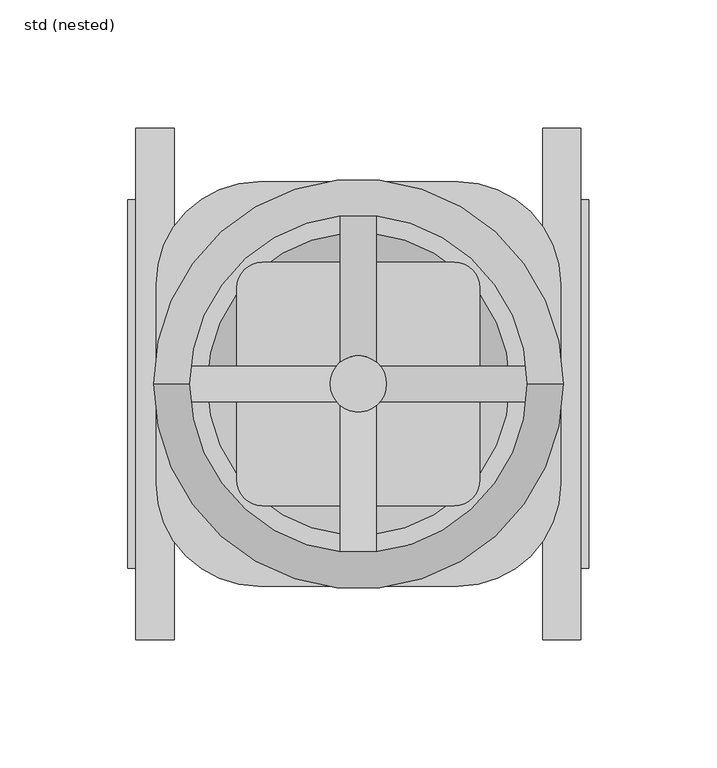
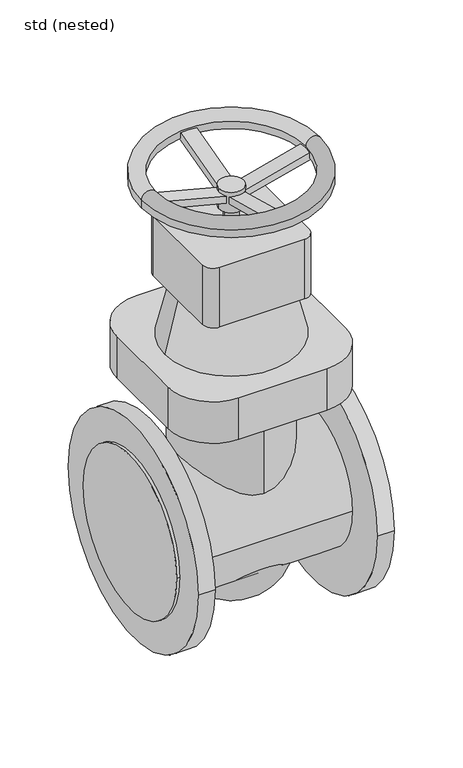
"""IFC4 building model written with IfcOpenShell, lengths in millimetres: valve geometry, ZZZ_do not use_PIA_FE_stop valve for muli star_ACO : std (nested)."""

from ifc_helpers import new_model, si_unit, point, frame, origin, origin_2d, place, context, project, spatial, polyline, circle_curve, ellipse_curve, trimmed, segment, composite_curve, outline, extrude, source, transform, mapped, element, save
from ifc_brep_helpers import plane_surface, cylinder_surface, revolved_surface, advanced_brep


def std_nested_9395a39a(model_context):
    return source(origin(), model_context, "Body", "SolidModel", [
        advanced_brep(
        [(37.5, 47.5, 259.0), (-37.5, 47.5, 259.0), (-47.5, 37.5, 259.0), (-47.5, -37.5, 259.0), (-37.5, -47.5, 259.0), (37.5, -47.5, 259.0), (47.5, -37.5, 259.0), (47.5, 37.5, 259.0), (6.0, 0.0, 259.0), (-6.0, 0.0, 259.0), (37.5, 47.5, 203.0), (47.5, 37.5, 203.0), (47.5, 0.0, 203.0), (0.0, 47.5, 203.0), (47.5, -37.5, 203.0), (37.5, -47.5, 203.0), (0.0, -47.5, 203.0), (-37.5, -47.5, 203.0), (-47.5, -37.5, 203.0), (-47.5, 0.0, 203.0), (-47.5, 37.5, 203.0), (-37.5, 47.5, 203.0), (-6.0, 0.0, 276.0), (6.0, 0.0, 276.0), (-59.0, 0.0, 156.0), (59.0, 0.0, 156.0), (39.0, 79.0, 156.0), (-39.0, 79.0, 156.0), (-79.0, 39.0, 156.0), (-79.0, -39.0, 156.0), (-39.0, -79.0, 156.0), (39.0, -79.0, 156.0), (79.0, -39.0, 156.0), (79.0, 39.0, 156.0), (39.0, 79.0, 117.0), (79.0, 39.0, 117.0), (79.0, -39.0, 117.0), (39.0, -79.0, 117.0), (-39.0, -79.0, 117.0), (-79.0, -39.0, 117.0), (-79.0, 39.0, 117.0), (-39.0, 79.0, 117.0), (0.0, 50.0, 117.0), (0.0, -50.0, 117.0), (0.0, -50.0, -35.0), (-50.0, 0.0, -35.0), (0.0, 50.0, -35.0), (50.0, 0.0, -35.0)],
        [
            (0, 1),
            (1, 2, circle_curve(frame((-37.5, 37.5, 259.0), z_axis=(0.0, 0.0, 1.0), x_axis=(1.0, 0.0, 0.0)), 10.0)),
            (2, 3),
            (3, 4, circle_curve(frame((-37.5, -37.5, 259.0), z_axis=(0.0, 0.0, 1.0), x_axis=(1.0, 0.0, 0.0)), 10.0)),
            (4, 5),
            (5, 6, circle_curve(frame((37.5, -37.5, 259.0), z_axis=(0.0, 0.0, 1.0), x_axis=(1.0, 0.0, 0.0)), 10.0)),
            (6, 7),
            (7, 0, circle_curve(frame((37.5, 37.5, 259.0), z_axis=(0.0, 0.0, 1.0), x_axis=(1.0, 0.0, 0.0)), 10.0)),
            (8, 9, circle_curve(frame((0.0, 0.0, 259.0), z_axis=(0.0, 0.0, -1.0), x_axis=(1.0, 0.0, 0.0)), 6.0)),
            (9, 8, circle_curve(frame((0.0, 0.0, 259.0), z_axis=(0.0, 0.0, -1.0), x_axis=(1.0, 0.0, 0.0)), 6.0)),
            (10, 11, circle_curve(frame((37.5, 37.5, 203.0), z_axis=(0.0, 0.0, -1.0), x_axis=(1.0, 0.0, 0.0)), 10.0)),
            (11, 12),
            (12, 13, circle_curve(frame((0.0, 0.0, 203.0), z_axis=(0.0, 0.0, 1.0), x_axis=(1.0, 0.0, 0.0)), 47.5)),
            (13, 10),
            (14, 15, circle_curve(frame((37.5, -37.5, 203.0), z_axis=(0.0, 0.0, -1.0), x_axis=(1.0, 0.0, 0.0)), 10.0)),
            (15, 16),
            (16, 12, circle_curve(frame((0.0, 0.0, 203.0), z_axis=(0.0, 0.0, 1.0), x_axis=(-1.0, 0.0, 0.0)), 47.5)),
            (12, 14),
            (17, 18, circle_curve(frame((-37.5, -37.5, 203.0), z_axis=(0.0, 0.0, -1.0), x_axis=(1.0, 0.0, 0.0)), 10.0)),
            (18, 19),
            (19, 16, circle_curve(frame((0.0, 0.0, 203.0), z_axis=(0.0, 0.0, 1.0), x_axis=(-1.0, 0.0, 0.0)), 47.5)),
            (16, 17),
            (20, 21, circle_curve(frame((-37.5, 37.5, 203.0), z_axis=(0.0, 0.0, -1.0), x_axis=(1.0, 0.0, 0.0)), 10.0)),
            (21, 13),
            (13, 19, circle_curve(frame((0.0, 0.0, 203.0), z_axis=(0.0, 0.0, 1.0), x_axis=(1.0, 0.0, 0.0)), 47.5)),
            (19, 20),
            (0, 10),
            (21, 1),
            (2, 20),
            (18, 3),
            (4, 17),
            (15, 5),
            (6, 14),
            (11, 7),
            (22, 23, circle_curve(frame((0.0, 0.0, 276.0), z_axis=(0.0, 0.0, 1.0), x_axis=(1.0, 0.0, 0.0)), 6.0)),
            (23, 22, circle_curve(frame((0.0, 0.0, 276.0), z_axis=(0.0, 0.0, 1.0), x_axis=(1.0, 0.0, 0.0)), 6.0)),
            (22, 9),
            (8, 23),
            (24, 19),
            (12, 25),
            (25, 24, circle_curve(frame((0.0, 0.0, 156.0), z_axis=(0.0, 0.0, 1.0), x_axis=(1.0, 0.0, 0.0)), 59.0)),
            (24, 25, circle_curve(frame((0.0, 0.0, 156.0), z_axis=(0.0, 0.0, 1.0), x_axis=(-1.0, 0.0, 0.0)), 59.0)),
            (26, 27),
            (27, 28, circle_curve(frame((-39.0, 39.0, 156.0), z_axis=(0.0, 0.0, 1.0), x_axis=(1.0, 0.0, 0.0)), 40.0)),
            (28, 29),
            (29, 30, circle_curve(frame((-39.0, -39.0, 156.0), z_axis=(0.0, 0.0, 1.0), x_axis=(1.0, 0.0, 0.0)), 40.0)),
            (30, 31),
            (31, 32, circle_curve(frame((39.0, -39.0, 156.0), z_axis=(0.0, 0.0, 1.0), x_axis=(1.0, 0.0, 0.0)), 40.0)),
            (32, 33),
            (33, 26, circle_curve(frame((39.0, 39.0, 156.0), z_axis=(0.0, 0.0, 1.0), x_axis=(1.0, 0.0, 0.0)), 40.0)),
            (34, 35, circle_curve(frame((39.0, 39.0, 117.0), z_axis=(0.0, 0.0, -1.0), x_axis=(1.0, 0.0, 0.0)), 40.0)),
            (35, 36),
            (36, 37, circle_curve(frame((39.0, -39.0, 117.0), z_axis=(0.0, 0.0, -1.0), x_axis=(1.0, 0.0, 0.0)), 40.0)),
            (37, 38),
            (38, 39, circle_curve(frame((-39.0, -39.0, 117.0), z_axis=(0.0, 0.0, -1.0), x_axis=(1.0, 0.0, 0.0)), 40.0)),
            (39, 40),
            (40, 41, circle_curve(frame((-39.0, 39.0, 117.0), z_axis=(0.0, 0.0, -1.0), x_axis=(1.0, 0.0, 0.0)), 40.0)),
            (41, 34),
            (42, 43, circle_curve(frame((0.0, 0.0, 117.0), z_axis=(0.0, 0.0, 1.0), x_axis=(0.0, -1.0, 0.0)), 50.0)),
            (43, 42, circle_curve(frame((0.0, 0.0, 117.0), z_axis=(0.0, 0.0, 1.0), x_axis=(0.0, -1.0, 0.0)), 50.0)),
            (26, 34),
            (41, 27),
            (28, 40),
            (39, 29),
            (30, 38),
            (37, 31),
            (32, 36),
            (35, 33),
            (44, 45, circle_curve(frame((0.0, 0.0, -35.0), z_axis=(0.0, 0.0, -1.0), x_axis=(0.0, 1.0, 0.0)), 50.0)),
            (45, 46, circle_curve(frame((0.0, 0.0, -35.0), z_axis=(0.0, 0.0, -1.0), x_axis=(0.0, -1.0, 0.0)), 50.0)),
            (46, 47, circle_curve(frame((0.0, 0.0, -35.0), z_axis=(0.0, 0.0, -1.0), x_axis=(0.0, -1.0, 0.0)), 50.0)),
            (47, 44, circle_curve(frame((0.0, 0.0, -35.0), z_axis=(0.0, 0.0, -1.0), x_axis=(0.0, 1.0, 0.0)), 50.0)),
            (42, 46),
            (44, 43),
        ],
        [
            plane_surface(frame((-37.5, 47.5, 259.0), z_axis=(0.0, 0.0, 1.0), x_axis=(-1.0, 0.0, 0.0))),
            plane_surface(frame((-37.5, 47.5, 203.0), z_axis=(0.0, 0.0, -1.0), x_axis=(1.0, 0.0, 0.0))),
            plane_surface(frame((37.5, 47.5, 259.0), z_axis=(0.0, 1.0, 0.0), x_axis=(0.0, 0.0, -1.0))),
            plane_surface(frame((-47.5, 37.5, 259.0), z_axis=(-1.0, 0.0, 0.0), x_axis=(0.0, 0.0, -1.0))),
            plane_surface(frame((-37.5, -47.5, 259.0), z_axis=(0.0, -1.0, 0.0), x_axis=(0.0, 0.0, -1.0))),
            plane_surface(frame((47.5, -37.5, 259.0), z_axis=(1.0, 0.0, 0.0), x_axis=(0.0, 0.0, -1.0))),
            cylinder_surface(frame((-37.5, 37.5, 203.0), z_axis=(0.0, 0.0, 1.0), x_axis=(1.0, 0.0, 0.0)), 10.0),
            cylinder_surface(frame((-37.5, -37.5, 203.0), z_axis=(0.0, 0.0, 1.0), x_axis=(1.0, 0.0, 0.0)), 10.0),
            cylinder_surface(frame((37.5, -37.5, 203.0), z_axis=(0.0, 0.0, 1.0), x_axis=(1.0, 0.0, 0.0)), 10.0),
            cylinder_surface(frame((37.5, 37.5, 203.0), z_axis=(0.0, 0.0, 1.0), x_axis=(1.0, 0.0, 0.0)), 10.0),
            plane_surface(frame((6.0, 0.0, 276.0), z_axis=(0.0, 0.0, 1.0), x_axis=(0.0, 1.0, 0.0))),
            cylinder_surface(frame((0.0, 0.0, 259.0), z_axis=(0.0, 0.0, 1.0), x_axis=(1.0, 0.0, 0.0)), 6.0),
            revolved_surface(polyline([(-47.500000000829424, 0.0, 203.0), (-59.0, 0.0, 156.0)]), (0.0, 0.0, 397.1304348), (0.0, 0.0, -1.0)),
            plane_surface(frame((-39.0, 79.0, 156.0), z_axis=(0.0, 0.0, 1.0), x_axis=(-1.0, 0.0, 0.0))),
            plane_surface(frame((-39.0, 79.0, 117.0), z_axis=(0.0, 0.0, -1.0), x_axis=(1.0, 0.0, 0.0))),
            plane_surface(frame((39.0, 79.0, 156.0), z_axis=(0.0, 1.0, 0.0), x_axis=(0.0, 0.0, -1.0))),
            plane_surface(frame((-79.0, 39.0, 156.0), z_axis=(-1.0, 0.0, 0.0), x_axis=(0.0, 0.0, -1.0))),
            plane_surface(frame((-39.0, -79.0, 156.0), z_axis=(0.0, -1.0, 0.0), x_axis=(0.0, 0.0, -1.0))),
            plane_surface(frame((79.0, -39.0, 156.0), z_axis=(1.0, 0.0, 0.0), x_axis=(0.0, 0.0, -1.0))),
            cylinder_surface(frame((-39.0, 39.0, 117.0), z_axis=(0.0, 0.0, 1.0), x_axis=(1.0, 0.0, 0.0)), 40.0),
            cylinder_surface(frame((-39.0, -39.0, 117.0), z_axis=(0.0, 0.0, 1.0), x_axis=(1.0, 0.0, 0.0)), 40.0),
            cylinder_surface(frame((39.0, -39.0, 117.0), z_axis=(0.0, 0.0, 1.0), x_axis=(1.0, 0.0, 0.0)), 40.0),
            cylinder_surface(frame((39.0, 39.0, 117.0), z_axis=(0.0, 0.0, 1.0), x_axis=(1.0, 0.0, 0.0)), 40.0),
            revolved_surface(trimmed(ellipse_curve(frame((0.0, 0.0, -35.0), z_axis=(0.0, 0.0, 1.0), x_axis=(0.0, -1.0, 0.0)), 50.0, 50.0), [point((50.0, 0.0, -35.0))], [point((-50.0, 0.0, -35.0))], True, "CARTESIAN"), (-64.0, 0.0, -35.0), (-1.0, 0.0, 0.0)),
            cylinder_surface(frame((0.0, 0.0, -35.0), z_axis=(0.0, 0.0, 1.0), x_axis=(0.0, -1.0, 0.0)), 50.0),
        ],
        [
            (0, [[1, 2, 3, 4, 5, 6, 7, 8], [9, 10]]),
            (1, [[11, 12, 13, 14]]),
            (1, [[15, 16, 17, 18]]),
            (1, [[19, 20, 21, 22]]),
            (1, [[23, 24, 25, 26]]),
            (2, [[-1, 27, -14, -24, 28]]),
            (3, [[-3, 29, -26, -20, 30]]),
            (4, [[-5, 31, -22, -16, 32]]),
            (5, [[-7, 33, -18, -12, 34]]),
            (6, [[-2, -28, -23, -29]]),
            (7, [[-4, -30, -19, -31]]),
            (8, [[-6, -32, -15, -33]]),
            (9, [[-8, -34, -11, -27]]),
            (10, [[35, 36]]),
            (11, [[-35, 37, -9, 38]]),
            (11, [[-36, -38, -10, -37]]),
            (12, [[39, -25, -13, 40, 41]]),
            (12, [[-39, 42, -40, -17, -21]]),
            (13, [[43, 44, 45, 46, 47, 48, 49, 50], [-41, -42]]),
            (14, [[51, 52, 53, 54, 55, 56, 57, 58], [59, 60]]),
            (15, [[-43, 61, -58, 62]]),
            (16, [[-45, 63, -56, 64]]),
            (17, [[-47, 65, -54, 66]]),
            (18, [[-49, 67, -52, 68]]),
            (19, [[-44, -62, -57, -63]]),
            (20, [[-46, -64, -55, -65]]),
            (21, [[-48, -66, -53, -67]]),
            (22, [[-50, -68, -51, -61]]),
            (23, [[69, 70, 71, 72]]),
            (24, [[73, -70, -69, 74, -59]]),
            (24, [[-73, -60, -74, -72, -71]]),
        ],
    ),
        advanced_brep(
        [(-73.0, -7.0, 301.0), (-8.4852814, -7.0, 284.5030856), (-8.4852814, -7.0, 290.9139101), (-65.627738, -7.0, 306.0475288), (-65.627738, -7.0, 301.0), (8.4852814, -7.0, 284.5030856), (73.0, -7.0, 301.0), (65.627738, -7.0, 301.0), (65.627738, -7.0, 306.0475288), (8.4852814, -7.0, 290.9139101), (73.0, 7.0, 301.0), (8.4852814, 7.0, 284.5030856), (8.4852814, 7.0, 290.9139101), (65.627738, 7.0, 306.0475288), (65.627738, 7.0, 301.0), (-8.4852814, 7.0, 284.5030856), (-73.0, 7.0, 301.0), (-65.627738, 7.0, 301.0), (-65.627738, 7.0, 306.0475288), (-8.4852814, 7.0, 290.9139101), (11.0, 0.0, 291.5799087), (66.0, 0.0, 306.1461187), (-11.0, 0.0, 291.5799087), (-66.0, 0.0, 306.1461187), (-73.0, 0.0, 301.0), (-11.0, 0.0, 285.1461187), (11.0, 0.0, 285.1461187), (73.0, 0.0, 301.0), (-11.0, 0.0, 295.0), (11.0, 0.0, 295.0), (-11.0, 0.0, 276.0), (11.0, 0.0, 276.0), (7.0, -8.4852814, 290.9139101), (7.0, -8.4852814, 284.5030856), (-7.0, -8.4852814, 284.5030856), (-7.0, -8.4852814, 290.9139101), (7.0, 8.4852814, 284.5030856), (7.0, 8.4852814, 290.9139101), (-7.0, 8.4852814, 290.9139101), (-7.0, 8.4852814, 284.5030856), (7.0, -73.0, 301.0), (7.0, -65.627738, 306.0475288), (7.0, -65.627738, 301.0), (7.0, 73.0, 301.0), (7.0, 65.627738, 301.0), (7.0, 65.627738, 306.0475288), (-7.0, 73.0, 301.0), (-7.0, 65.627738, 306.0475288), (-7.0, 65.627738, 301.0), (-7.0, -73.0, 301.0), (-7.0, -65.627738, 301.0), (-7.0, -65.627738, 306.0475288), (-80.0, 0.0, 301.0), (80.0, 0.0, 301.0), (-80.0, 0.0, 308.0), (80.0, 0.0, 308.0), (-66.0, 0.0, 308.0), (66.0, 0.0, 308.0)],
        [
            (0, 1),
            (1, 2),
            (2, 3),
            (3, 4),
            (4, 0),
            (5, 6),
            (6, 7),
            (7, 8),
            (8, 9),
            (9, 5),
            (10, 11),
            (11, 12),
            (12, 13),
            (13, 14),
            (14, 10),
            (15, 16),
            (16, 17),
            (17, 18),
            (18, 19),
            (19, 15),
            (20, 9, ellipse_curve(frame((0.0, 0.0, 288.6666667), z_axis=(0.25601388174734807, 0.0, -0.9666731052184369), x_axis=(0.9666731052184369, 0.0, 0.2560138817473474)), 11.3792346, 11.0)),
            (8, 21, ellipse_curve(frame((0.0, 0.0, 288.6666667), z_axis=(-0.25601388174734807, 0.0, 0.9666731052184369), x_axis=(0.9666731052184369, 0.0, 0.2560138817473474)), 68.2754073, 66.0)),
            (21, 13, ellipse_curve(frame((0.0, 0.0, 288.6666667), z_axis=(-0.25601388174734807, 0.0, 0.9666731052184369), x_axis=(0.9666731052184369, 0.0, 0.2560138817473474)), 68.2754073, 66.0)),
            (12, 20, ellipse_curve(frame((0.0, 0.0, 288.6666667), z_axis=(0.25601388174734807, 0.0, -0.9666731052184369), x_axis=(0.9666731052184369, 0.0, 0.2560138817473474)), 11.3792346, 11.0)),
            (2, 22, ellipse_curve(frame((0.0, 0.0, 288.6666667), z_axis=(-0.25601388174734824, 0.0, -0.9666731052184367), x_axis=(-0.9666731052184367, 0.0, 0.25601388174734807)), 11.3792346, 11.0)),
            (22, 19, ellipse_curve(frame((0.0, 0.0, 288.6666667), z_axis=(-0.25601388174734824, 0.0, -0.9666731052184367), x_axis=(-0.9666731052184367, 0.0, 0.25601388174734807)), 11.3792346, 11.0)),
            (18, 23, ellipse_curve(frame((0.0, 0.0, 288.6666667), z_axis=(0.25601388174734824, 0.0, 0.9666731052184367), x_axis=(-0.9666731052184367, 0.0, 0.25601388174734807)), 68.2754073, 66.0)),
            (23, 3, ellipse_curve(frame((0.0, 0.0, 288.6666667), z_axis=(0.25601388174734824, 0.0, 0.9666731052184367), x_axis=(-0.9666731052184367, 0.0, 0.25601388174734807)), 68.2754073, 66.0)),
            (0, 24),
            (24, 16),
            (15, 25, ellipse_curve(frame((0.0, 0.0, 282.3333333), z_axis=(0.24773668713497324, 0.0, 0.968827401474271), x_axis=(-0.9688274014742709, 0.0, 0.2477366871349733)), 11.3539315, 11.0)),
            (25, 1, ellipse_curve(frame((0.0, 0.0, 282.3333333), z_axis=(0.24773668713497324, 0.0, 0.968827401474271), x_axis=(-0.9688274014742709, 0.0, 0.2477366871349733)), 11.3539315, 11.0)),
            (5, 26, ellipse_curve(frame((0.0, 0.0, 282.3333333), z_axis=(-0.24773668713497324, 0.0, 0.968827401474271), x_axis=(0.9688274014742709, 0.0, 0.2477366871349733)), 11.3539315, 11.0)),
            (26, 11, ellipse_curve(frame((0.0, 0.0, 282.3333333), z_axis=(-0.24773668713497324, 0.0, 0.968827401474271), x_axis=(0.9688274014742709, 0.0, 0.2477366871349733)), 11.3539315, 11.0)),
            (10, 27),
            (27, 6),
            (28, 29, circle_curve(frame((0.0, 0.0, 295.0), z_axis=(0.0, 0.0, 1.0), x_axis=(1.0, 0.0, 0.0)), 11.0)),
            (29, 28, circle_curve(frame((0.0, 0.0, 295.0), z_axis=(0.0, 0.0, 1.0), x_axis=(1.0, 0.0, 0.0)), 11.0)),
            (30, 31, circle_curve(frame((0.0, 0.0, 276.0), z_axis=(0.0, 0.0, -1.0), x_axis=(1.0, 0.0, 0.0)), 11.0)),
            (31, 30, circle_curve(frame((0.0, 0.0, 276.0), z_axis=(0.0, 0.0, -1.0), x_axis=(1.0, 0.0, 0.0)), 11.0)),
            (28, 22),
            (25, 30),
            (31, 26),
            (20, 29),
            (32, 33),
            (33, 34, ellipse_curve(frame((0.0, 0.0, 282.3333333), z_axis=(0.0, -0.24773668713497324, -0.968827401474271), x_axis=(0.0, -0.9688274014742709, 0.2477366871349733)), 11.3539315, 11.0)),
            (34, 35),
            (35, 32, ellipse_curve(frame((0.0, 0.0, 288.6666667), z_axis=(0.0, 0.25601388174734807, 0.9666731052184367), x_axis=(0.0, -0.9666731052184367, 0.25601388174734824)), 11.3792346, 11.0)),
            (36, 37),
            (37, 38, ellipse_curve(frame((0.0, 0.0, 288.6666667), z_axis=(0.0, -0.2560138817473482, 0.9666731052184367), x_axis=(0.0, 0.9666731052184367, 0.2560138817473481)), 11.3792346, 11.0)),
            (38, 39),
            (39, 36, ellipse_curve(frame((0.0, 0.0, 282.3333333), z_axis=(0.0, 0.24773668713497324, -0.968827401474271), x_axis=(0.0, 0.9688274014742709, 0.2477366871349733)), 11.3539315, 11.0)),
            (40, 33),
            (32, 41),
            (41, 42),
            (42, 40),
            (36, 43),
            (43, 44),
            (44, 45),
            (45, 37),
            (46, 39),
            (38, 47),
            (47, 48),
            (48, 46),
            (34, 49),
            (49, 50),
            (50, 51),
            (51, 35),
            (40, 49),
            (46, 43),
            (45, 47, ellipse_curve(frame((0.0, 0.0, 288.6666667), z_axis=(0.0, -0.2560138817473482, 0.9666731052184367), x_axis=(0.0, 0.9666731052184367, 0.2560138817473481)), 68.2754073, 66.0)),
            (51, 41, ellipse_curve(frame((0.0, 0.0, 288.6666667), z_axis=(0.0, 0.25601388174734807, 0.9666731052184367), x_axis=(0.0, -0.9666731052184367, 0.25601388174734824)), 68.2754073, 66.0)),
            (52, 53, circle_curve(frame((0.0, 0.0, 301.0), z_axis=(0.0, 0.0, -1.0), x_axis=(1.0, 0.0, 0.0)), 80.0)),
            (53, 27),
            (14, 44, circle_curve(frame((0.0, 0.0, 301.0), z_axis=(0.0, 0.0, 1.0), x_axis=(1.0, 0.0, 0.0)), 66.0)),
            (48, 17, circle_curve(frame((0.0, 0.0, 301.0), z_axis=(0.0, 0.0, 1.0), x_axis=(1.0, 0.0, 0.0)), 66.0)),
            (24, 52),
            (53, 52, circle_curve(frame((0.0, 0.0, 301.0), z_axis=(0.0, 0.0, -1.0), x_axis=(1.0, 0.0, 0.0)), 80.0)),
            (4, 50, circle_curve(frame((0.0, 0.0, 301.0), z_axis=(0.0, 0.0, 1.0), x_axis=(1.0, 0.0, 0.0)), 66.0)),
            (42, 7, circle_curve(frame((0.0, 0.0, 301.0), z_axis=(0.0, 0.0, 1.0), x_axis=(1.0, 0.0, 0.0)), 66.0)),
            (52, 54),
            (54, 55, circle_curve(frame((0.0, 0.0, 308.0), z_axis=(0.0, 0.0, -1.0), x_axis=(1.0, 0.0, 0.0)), 80.0)),
            (55, 53),
            (55, 54, circle_curve(frame((0.0, 0.0, 308.0), z_axis=(0.0, 0.0, -1.0), x_axis=(1.0, 0.0, 0.0)), 80.0)),
            (54, 56, circle_curve(frame((-73.0, 0.0, 308.0), z_axis=(0.0, 1.0, 0.0), x_axis=(0.0, 0.0, 1.0)), 7.0)),
            (56, 57, circle_curve(frame((0.0, 0.0, 308.0), z_axis=(0.0, 0.0, -1.0), x_axis=(1.0, 0.0, 0.0)), 66.0)),
            (57, 55, circle_curve(frame((73.0, 0.0, 308.0), z_axis=(0.0, 1.0, 0.0), x_axis=(0.0, 0.0, 1.0)), 7.0)),
            (57, 56, circle_curve(frame((0.0, 0.0, 308.0), z_axis=(0.0, 0.0, -1.0), x_axis=(1.0, 0.0, 0.0)), 66.0)),
            (56, 23),
            (21, 57),
        ],
        [
            plane_surface(frame((73.0, -7.0, 301.0), z_axis=(0.0, -1.0, 0.0), x_axis=(0.0, 0.0, 1.0))),
            plane_surface(frame((73.0, 7.0, 301.0), z_axis=(0.0, 1.0, 0.0), x_axis=(0.0, 0.0, -1.0))),
            plane_surface(frame((73.0, -7.0, 308.0), z_axis=(-0.25601388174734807, 0.0, 0.9666731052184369), x_axis=(0.0, 1.0, 0.0))),
            plane_surface(frame((0.0, -7.0, 288.6666667), z_axis=(0.25601388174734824, 0.0, 0.9666731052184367), x_axis=(0.0, 1.0, 0.0))),
            plane_surface(frame((-73.0, -7.0, 301.0), z_axis=(-0.24773668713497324, 0.0, -0.968827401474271), x_axis=(0.0, 1.0, 0.0))),
            plane_surface(frame((0.0, -7.0, 282.3333333), z_axis=(0.24773668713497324, 0.0, -0.968827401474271), x_axis=(0.0, 1.0, 0.0))),
            plane_surface(frame((11.0, 0.0, 295.0), z_axis=(0.0, 0.0, 1.0), x_axis=(0.0, 1.0, 0.0))),
            plane_surface(frame((11.0, 0.0, 276.0), z_axis=(0.0, 0.0, -1.0), x_axis=(0.0, -1.0, 0.0))),
            cylinder_surface(frame((0.0, 0.0, 276.0), z_axis=(0.0, 0.0, 1.0), x_axis=(1.0, 0.0, 0.0)), 11.0),
            plane_surface(frame((7.0, 0.0, 282.3333333), z_axis=(1.0, 0.0, 0.0), x_axis=(0.0, 0.968827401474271, -0.24773668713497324))),
            plane_surface(frame((-7.0, 0.0, 282.3333333), z_axis=(-1.0, 0.0, 0.0), x_axis=(0.0, -0.968827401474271, 0.24773668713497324))),
            plane_surface(frame((7.0, -73.0, 301.0), z_axis=(0.0, -0.24773668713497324, -0.968827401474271), x_axis=(-1.0, 0.0, 0.0))),
            plane_surface(frame((7.0, 0.0, 282.3333333), z_axis=(0.0, 0.24773668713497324, -0.968827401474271), x_axis=(-1.0, 0.0, 0.0))),
            plane_surface(frame((7.0, 73.0, 308.0), z_axis=(0.0, -0.2560138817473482, 0.9666731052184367), x_axis=(-1.0, 0.0, 0.0))),
            plane_surface(frame((7.0, 0.0, 288.6666667), z_axis=(0.0, 0.25601388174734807, 0.9666731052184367), x_axis=(-1.0, 0.0, 0.0))),
            plane_surface(frame((0.0, 0.0, 301.0), z_axis=(0.0, 0.0, -1.0), x_axis=(1.0, 0.0, 0.0))),
            cylinder_surface(frame((0.0, 0.0, 405.0), z_axis=(0.0, 0.0, 1.0), x_axis=(1.0, 0.0, 0.0)), 80.0),
            revolved_surface(trimmed(ellipse_curve(frame((73.0, 0.0, 308.0), z_axis=(0.0, -1.0, 0.0), x_axis=(0.0, 0.0, 1.0)), 7.0, 7.0), [point((80.0, 0.0, 308.0))], [point((66.0, 0.0, 308.0))], True, "CARTESIAN"), (0.0, 0.0, 405.0), (0.0, 0.0, 1.0)),
            revolved_surface(polyline([(66.0, 0.0, 308.0), (66.0, 0.0, 271.1872146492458)]), (0.0, 0.0, 405.0), (0.0, 0.0, 1.0)),
        ],
        [
            (0, [[1, 2, 3, 4, 5]]),
            (0, [[6, 7, 8, 9, 10]]),
            (1, [[11, 12, 13, 14, 15]]),
            (1, [[16, 17, 18, 19, 20]]),
            (2, [[21, -9, 22, 23, -13, 24]]),
            (3, [[25, 26, -19, 27, 28, -3]]),
            (4, [[-1, 29, 30, -16, 31, 32]]),
            (5, [[-6, 33, 34, -11, 35, 36]]),
            (6, [[37, 38]]),
            (7, [[39, 40]]),
            (8, [[-37, 41, -25, -2, -32, 42, -40, 43, -33, -10, -21, 44], [45, 46, 47, 48]]),
            (8, [[-38, -44, -24, -12, -34, -43, -39, -42, -31, -20, -26, -41], [49, 50, 51, 52]]),
            (9, [[53, -45, 54, 55, 56]]),
            (9, [[57, 58, 59, 60, -49]]),
            (10, [[61, -51, 62, 63, 64]]),
            (10, [[65, 66, 67, 68, -47]]),
            (11, [[-53, 69, -65, -46]]),
            (12, [[-57, -52, -61, 70]]),
            (13, [[-50, -60, 71, -62]]),
            (14, [[-48, -68, 72, -54]]),
            (15, [[73, 74, -35, -15, 75, -58, -70, -64, 76, -17, -30, 77]]),
            (15, [[78, -77, -29, -5, 79, -66, -69, -56, 80, -7, -36, -74]]),
            (16, [[-73, 81, 82, 83]]),
            (16, [[-78, -83, 84, -81]]),
            (17, [[-82, 85, 86, 87]]),
            (17, [[-84, -87, 88, -85]]),
            (18, [[-86, 89, -27, -18, -76, -63, -71, -59, -75, -14, -23, 90]]),
            (18, [[-88, -90, -22, -8, -80, -55, -72, -67, -79, -4, -28, -89]]),
        ],
    ),
        advanced_brep(
        [(72.0, -61.5, 0.0), (72.0, 61.5, 0.0), (-72.0, -61.5, 0.0), (-72.0, 61.5, 0.0), (-72.0, -100.0, 0.0), (-72.0, 100.0, 0.0), (-87.0, -100.0, 0.0), (-87.0, 100.0, 0.0)],
        [
            (0, 1, circle_curve(frame((72.0, 0.0, 0.0), z_axis=(1.0, 0.0, 0.0), x_axis=(0.0, 1.0, 0.0)), 61.5)),
            (1, 0, circle_curve(frame((72.0, 0.0, 0.0), z_axis=(1.0, 0.0, 0.0), x_axis=(0.0, 1.0, 0.0)), 61.5)),
            (0, 2),
            (2, 3, circle_curve(frame((-72.0, 0.0, 0.0), z_axis=(1.0, 0.0, 0.0), x_axis=(0.0, 1.0, 0.0)), 61.5)),
            (3, 1),
            (3, 2, circle_curve(frame((-72.0, 0.0, 0.0), z_axis=(1.0, 0.0, 0.0), x_axis=(0.0, 1.0, 0.0)), 61.5)),
            (4, 5, circle_curve(frame((-72.0, 0.0, 0.0), z_axis=(1.0, 0.0, 0.0), x_axis=(0.0, 1.0, 0.0)), 100.0)),
            (5, 4, circle_curve(frame((-72.0, 0.0, 0.0), z_axis=(1.0, 0.0, 0.0), x_axis=(0.0, 1.0, 0.0)), 100.0)),
            (6, 7, circle_curve(frame((-87.0, 0.0, 0.0), z_axis=(-1.0, 0.0, 0.0), x_axis=(0.0, 1.0, 0.0)), 100.0)),
            (7, 6, circle_curve(frame((-87.0, 0.0, 0.0), z_axis=(-1.0, 0.0, 0.0), x_axis=(0.0, 1.0, 0.0)), 100.0)),
            (4, 6),
            (7, 5),
        ],
        [
            plane_surface(frame((72.0, 61.5, 0.0), z_axis=(1.0, 0.0, 0.0), x_axis=(0.0, 0.0, 1.0))),
            cylinder_surface(frame((-72.0, 0.0, 0.0), z_axis=(1.0, 0.0, 0.0), x_axis=(0.0, 1.0, 0.0)), 61.5),
            plane_surface(frame((-72.0, 100.0, 0.0), z_axis=(1.0, 0.0, 0.0), x_axis=(0.0, 0.0, 1.0))),
            plane_surface(frame((-87.0, 100.0, 0.0), z_axis=(-1.0, 0.0, 0.0), x_axis=(0.0, 0.0, -1.0))),
            cylinder_surface(frame((-87.0, 0.0, 0.0), z_axis=(1.0, 0.0, 0.0), x_axis=(0.0, 1.0, 0.0)), 100.0),
        ],
        [
            (0, [[1, 2]]),
            (1, [[-1, 3, 4, 5]]),
            (1, [[-2, -5, 6, -3]]),
            (2, [[7, 8], [-4, -6]]),
            (3, [[9, 10]]),
            (4, [[-7, 11, -10, 12]]),
            (4, [[-8, -12, -9, -11]]),
        ],
    ),
        extrude(outline(composite_curve([segment(trimmed(circle_curve(origin_2d(), 100.0), [point((-100.0, 0.0))], [point((100.0, 0.0))], False, "CARTESIAN"), True, "CONTINUOUS"), segment(trimmed(circle_curve(origin_2d(), 100.0), [point((100.0, 0.0))], [point((-100.0, 0.0))], False, "CARTESIAN"), True, "CONTINUOUS")], self_intersect=False)), frame((72.0, 0.0, 0.0), z_axis=(1.0, 0.0, 0.0), x_axis=(0.0, 1.0, 0.0)), (0.0, 0.0, 1.0), 15.0),
        extrude(outline(composite_curve([segment(trimmed(circle_curve(origin_2d(), 72.0), [point((-72.0, 0.0))], [point((72.0, 0.0))], False, "CARTESIAN"), True, "CONTINUOUS"), segment(trimmed(circle_curve(origin_2d(), 72.0), [point((72.0, 0.0))], [point((-72.0, 0.0))], False, "CARTESIAN"), True, "CONTINUOUS")], self_intersect=False)), frame((87.0, 0.0, 0.0), z_axis=(1.0, 0.0, 0.0), x_axis=(0.0, 1.0, 0.0)), (0.0, 0.0, 1.0), 3.0),
        extrude(outline(composite_curve([segment(trimmed(circle_curve(origin_2d(), 72.0), [point((-72.0, 0.0))], [point((72.0, 0.0))], False, "CARTESIAN"), True, "CONTINUOUS"), segment(trimmed(circle_curve(origin_2d(), 72.0), [point((72.0, 0.0))], [point((-72.0, 0.0))], False, "CARTESIAN"), True, "CONTINUOUS")], self_intersect=False)), frame((-90.0, 0.0, 0.0), z_axis=(1.0, 0.0, 0.0), x_axis=(0.0, 1.0, 0.0)), (0.0, 0.0, 1.0), 3.0),
    ])


if __name__ == "__main__":
    model = new_model("IFC4")
    model_context = context("Model", 3, world=origin())
    ifc_project = project(units=[si_unit("LENGTHUNIT", "METRE", prefix="MILLI")], contexts=[model_context])
    site = spatial("IfcSite", under=ifc_project)
    building = spatial("IfcBuilding", under=site)
    placement = place(None, origin())
    std_nested_shape = std_nested_9395a39a(model_context)
    element("IfcValve", 1, ObjectType="ZZZ_do not use_PIA_FE_stop valve for muli star_ACO : std (nested)", at=placement, inside=building, context=model_context, shape_type="MappedRepresentation", body=[
        mapped(std_nested_shape, transform((0.0, 0.0, 0.0), x_axis=(1.0, 0.0, 0.0), y_axis=(0.0, 1.0, 0.0), z_axis=(0.0, 0.0, 1.0))),
    ])
    save(model, "model.ifc")
